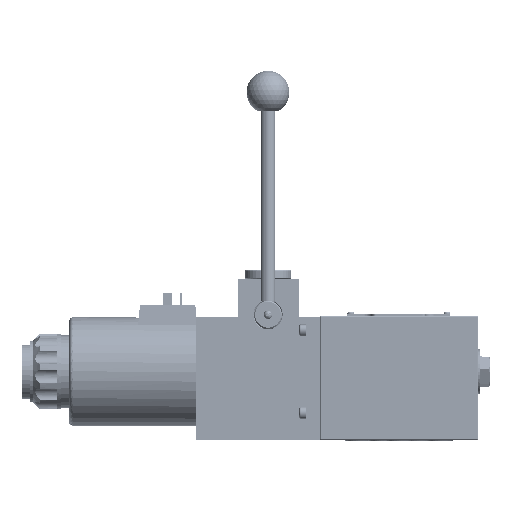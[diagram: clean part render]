
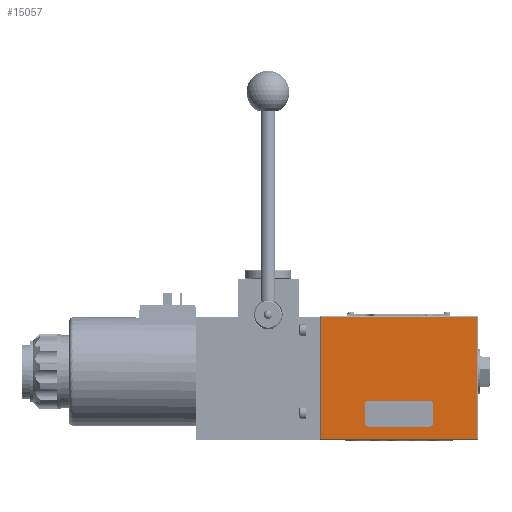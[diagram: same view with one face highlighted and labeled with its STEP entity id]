
A CAD part, front view. The second image highlights one B-rep face of the part: STEP entity #15057.
In plain terms, the highlighted planar face has unit normal (0, -1, 0).
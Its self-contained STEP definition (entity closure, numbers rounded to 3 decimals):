
#1319=LINE('',#37901,#2687);
#1320=LINE('',#37904,#2688);
#1321=LINE('',#37906,#2689);
#1322=LINE('',#37908,#2690);
#1323=LINE('',#37909,#2691);
#1324=LINE('',#37914,#2692);
#1325=LINE('',#37918,#2693);
#1326=LINE('',#37922,#2694);
#2687=VECTOR('',#20843,1.);
#2688=VECTOR('',#20844,1.);
#2689=VECTOR('',#20845,1.);
#2690=VECTOR('',#20846,1.);
#2691=VECTOR('',#20847,1.);
#2692=VECTOR('',#20850,1.);
#2693=VECTOR('',#20853,1.);
#2694=VECTOR('',#20856,1.);
#4192=PLANE('',#18651);
#5427=EDGE_LOOP('',(#7311,#7312,#7313,#7314));
#5428=EDGE_LOOP('',(#7315,#7316,#7317,#7318,#7319,#7320,#7321,#7322));
#7311=ORIENTED_EDGE('',*,*,#12219,.T.);
#7312=ORIENTED_EDGE('',*,*,#12220,.T.);
#7313=ORIENTED_EDGE('',*,*,#12221,.T.);
#7314=ORIENTED_EDGE('',*,*,#12222,.T.);
#7315=ORIENTED_EDGE('',*,*,#12223,.F.);
#7316=ORIENTED_EDGE('',*,*,#12224,.F.);
#7317=ORIENTED_EDGE('',*,*,#12225,.F.);
#7318=ORIENTED_EDGE('',*,*,#12226,.F.);
#7319=ORIENTED_EDGE('',*,*,#12227,.F.);
#7320=ORIENTED_EDGE('',*,*,#12228,.F.);
#7321=ORIENTED_EDGE('',*,*,#12229,.F.);
#7322=ORIENTED_EDGE('',*,*,#12230,.F.);
#12219=EDGE_CURVE('',#17174,#17175,#1319,.T.);
#12220=EDGE_CURVE('',#17175,#17176,#1320,.T.);
#12221=EDGE_CURVE('',#17176,#17177,#1321,.T.);
#12222=EDGE_CURVE('',#17177,#17174,#1322,.T.);
#12223=EDGE_CURVE('',#17178,#17179,#1323,.T.);
#12224=EDGE_CURVE('',#17180,#17178,#14272,.T.);
#12225=EDGE_CURVE('',#17181,#17180,#1324,.T.);
#12226=EDGE_CURVE('',#17182,#17181,#14273,.T.);
#12227=EDGE_CURVE('',#17183,#17182,#1325,.T.);
#12228=EDGE_CURVE('',#17184,#17183,#14274,.T.);
#12229=EDGE_CURVE('',#17185,#17184,#1326,.T.);
#12230=EDGE_CURVE('',#17179,#17185,#14275,.T.);
#14272=CIRCLE('',#18647,2.);
#14273=CIRCLE('',#18648,2.);
#14274=CIRCLE('',#18649,2.);
#14275=CIRCLE('',#18650,2.);
#15057=ADVANCED_FACE('',(#16178,#16179),#4192,.T.);
#16178=FACE_BOUND('',#5427,.T.);
#16179=FACE_BOUND('',#5428,.T.);
#17174=VERTEX_POINT('',#37902);
#17175=VERTEX_POINT('',#37903);
#17176=VERTEX_POINT('',#37905);
#17177=VERTEX_POINT('',#37907);
#17178=VERTEX_POINT('',#37910);
#17179=VERTEX_POINT('',#37911);
#17180=VERTEX_POINT('',#37913);
#17181=VERTEX_POINT('',#37915);
#17182=VERTEX_POINT('',#37917);
#17183=VERTEX_POINT('',#37919);
#17184=VERTEX_POINT('',#37921);
#17185=VERTEX_POINT('',#37923);
#18647=AXIS2_PLACEMENT_3D('',#37912,#20848,#20849);
#18648=AXIS2_PLACEMENT_3D('',#37916,#20851,#20852);
#18649=AXIS2_PLACEMENT_3D('',#37920,#20854,#20855);
#18650=AXIS2_PLACEMENT_3D('',#37924,#20857,#20858);
#18651=AXIS2_PLACEMENT_3D('',#37925,#20859,#20860);
#20843=DIRECTION('',(0.,0.,1.));
#20844=DIRECTION('',(-1.,0.,0.));
#20845=DIRECTION('',(0.,0.,-1.));
#20846=DIRECTION('',(1.,0.,0.));
#20847=DIRECTION('',(1.,0.,0.));
#20848=DIRECTION('',(0.,-1.,0.));
#20849=DIRECTION('',(0.,0.,-1.));
#20850=DIRECTION('',(0.,0.,-1.));
#20851=DIRECTION('',(0.,-1.,0.));
#20852=DIRECTION('',(0.,0.,-1.));
#20853=DIRECTION('',(-1.,0.,0.));
#20854=DIRECTION('',(0.,-1.,0.));
#20855=DIRECTION('',(0.,0.,-1.));
#20856=DIRECTION('',(0.,0.,1.));
#20857=DIRECTION('',(0.,-1.,0.));
#20858=DIRECTION('',(0.,0.,-1.));
#20859=DIRECTION('',(0.,-1.,0.));
#20860=DIRECTION('',(0.,0.,1.));
#37901=CARTESIAN_POINT('',(89.5,0.,-72.5));
#37902=CARTESIAN_POINT('',(89.5,0.,-71.8));
#37903=CARTESIAN_POINT('',(89.5,0.,-0.7));
#37904=CARTESIAN_POINT('',(-2.2,0.,-0.7));
#37905=CARTESIAN_POINT('',(-1.5,0.,-0.7));
#37906=CARTESIAN_POINT('',(-1.5,0.,-72.5));
#37907=CARTESIAN_POINT('',(-1.5,0.,-71.8));
#37908=CARTESIAN_POINT('',(90.2,0.,-71.8));
#37909=CARTESIAN_POINT('',(-2.2,0.,-64.5));
#37910=CARTESIAN_POINT('',(26.,0.,-64.5));
#37911=CARTESIAN_POINT('',(62.,0.,-64.5));
#37912=CARTESIAN_POINT('',(26.,0.,-62.5));
#37913=CARTESIAN_POINT('',(24.,0.,-62.5));
#37914=CARTESIAN_POINT('',(24.,0.,-72.5));
#37915=CARTESIAN_POINT('',(24.,0.,-51.5));
#37916=CARTESIAN_POINT('',(26.,0.,-51.5));
#37917=CARTESIAN_POINT('',(26.,0.,-49.5));
#37918=CARTESIAN_POINT('',(-2.2,0.,-49.5));
#37919=CARTESIAN_POINT('',(62.,0.,-49.5));
#37920=CARTESIAN_POINT('',(62.,0.,-51.5));
#37921=CARTESIAN_POINT('',(64.,0.,-51.5));
#37922=CARTESIAN_POINT('',(64.,0.,-72.5));
#37923=CARTESIAN_POINT('',(64.,0.,-62.5));
#37924=CARTESIAN_POINT('',(62.,0.,-62.5));
#37925=CARTESIAN_POINT('',(-2.2,0.,-72.5));
